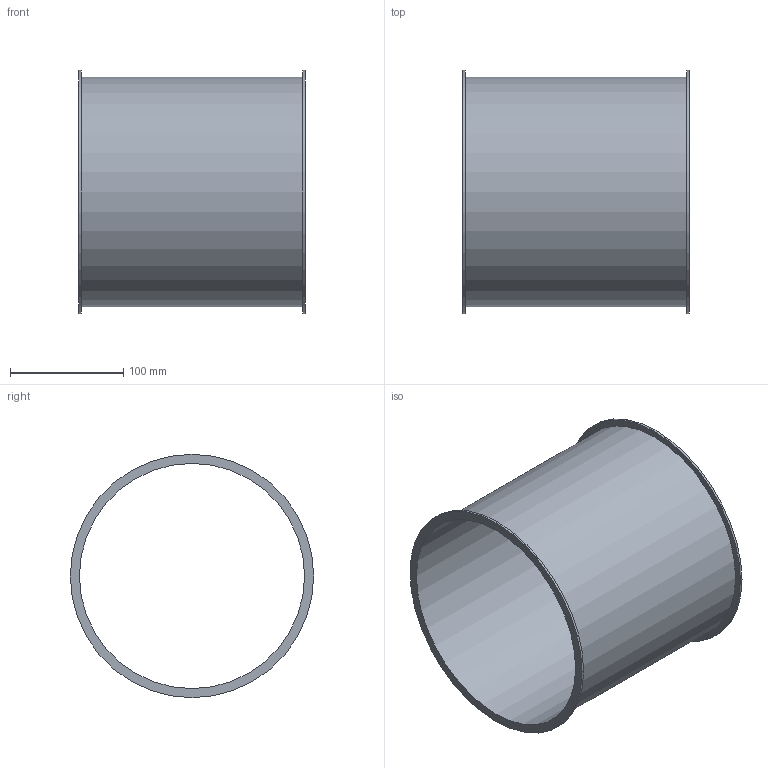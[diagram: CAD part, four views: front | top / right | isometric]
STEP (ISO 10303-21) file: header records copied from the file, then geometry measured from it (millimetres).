
FILE_DESCRIPTION((''),'2;1');
FILE_NAME('U:\Wolfgang\Marcel-3D\fertig\Kapitel 1\2021004.stp','2010-05-31T11:15:58',('TK2'),(''),'Autodesk Inventor 2010','Autodesk Inventor 2010','');
FILE_SCHEMA(('AUTOMOTIVE_DESIGN { 1 0 10303 214 1 1 1 1 }'));
Length unit declared in the file: millimetre
Products named in the file (1): 2021004
Bounding box: 200 x 215 x 215 mm (x, y, z)
Volume: 268342.3 mm3; surface area: 271018.9 mm2
Topology: 1 solids, 1 shells, 8 faces, 12 edges, 8 vertices
Faces by surface type: cylinder 4, plane 4
Full cylindrical faces by diameter (mm): 199 x1, 203 x1, 215 x2
Entity records: 194 total; most frequent: DIRECTION 34, CARTESIAN_POINT 25, AXIS2_PLACEMENT_3D 17, ORIENTED_EDGE 16, EDGE_LOOP 16, VERTEX_POINT 8, CIRCLE 8, EDGE_CURVE 8
